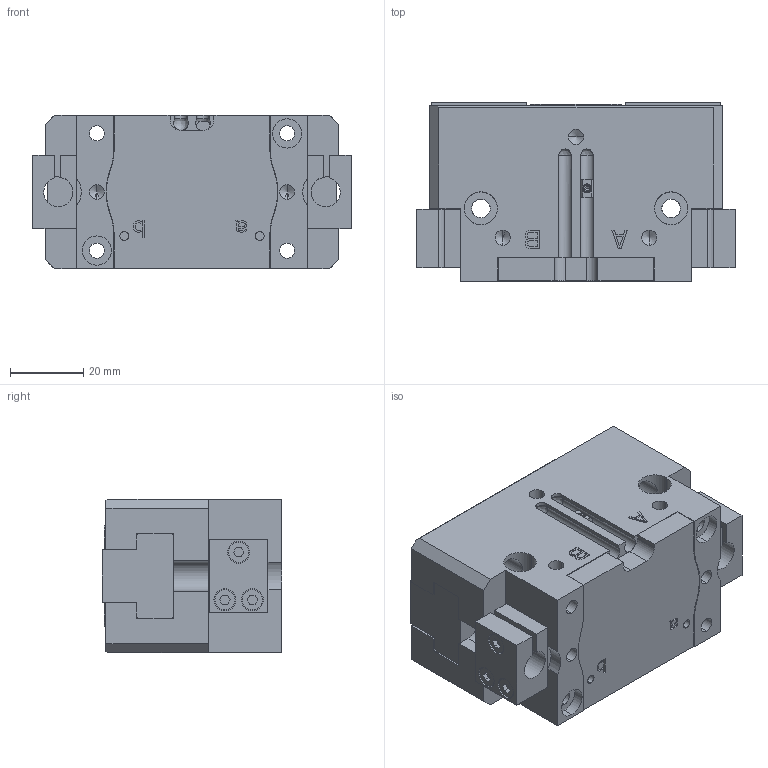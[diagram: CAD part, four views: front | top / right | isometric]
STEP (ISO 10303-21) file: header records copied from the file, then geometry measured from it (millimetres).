
FILE_DESCRIPTION (( 'STEP AP214' ), '1' );
FILE_NAME ('FPT80A-1.STEP', '2021-09-18T04:03:55', ( 'DEEP' ), ( 'Microsoft' ), 'SwSTEP 2.0', 'SolidWorks 2016', '' );
FILE_SCHEMA (( 'AUTOMOTIVE_DESIGN' ));
Length unit declared in the file: millimetre
Products named in the file (15): FPT80A-1-001-002; FPT80A-1-003; FPT80A-1-004; FPT80A-1-005; FPT80A-1-001; FPT80A-1-006; FPT80A-1
Assembly tree (8 placements, depth 2):
  FPT80A-1-004
  FPT80A-1-004
  FPT80A-1-005
  FPT80A-1-001
  FPT80A-1-001
Bounding box: 87 x 49 x 42 mm (x, y, z)
Volume: 137348.8 mm3; surface area: 46989.1 mm2
Topology: 8 solids, 8 shells, 611 faces, 1602 edges, 1029 vertices
Faces by surface type: plane 380, cylinder 161, cone 64, bspline 6
Entity records: 17305 total; most frequent: CARTESIAN_POINT 3545, ORIENTED_EDGE 2716, DIRECTION 2704, EDGE_CURVE 1358, VECTOR 1000, LINE 1000, VERTEX_POINT 897, AXIS2_PLACEMENT_3D 852
